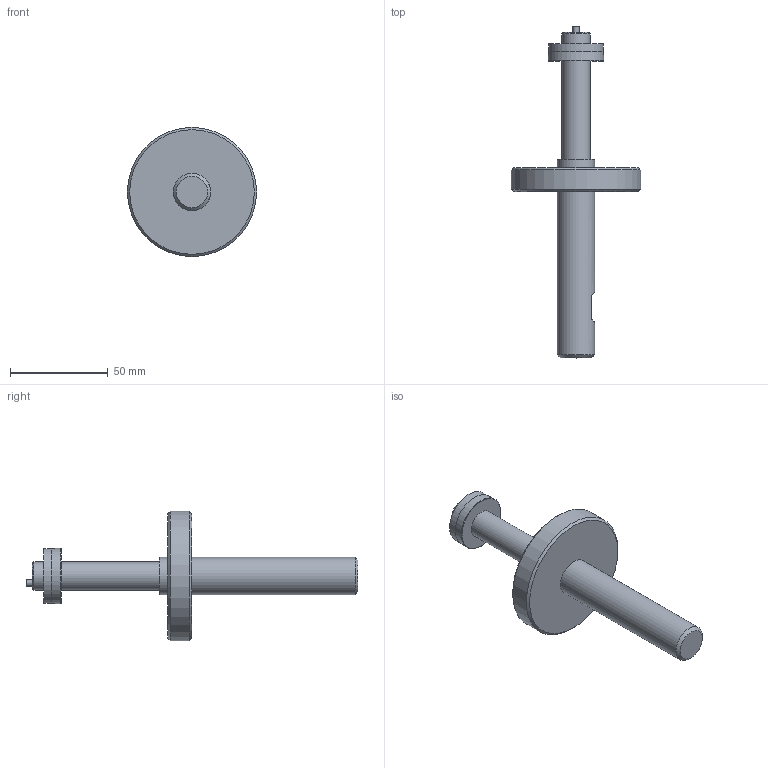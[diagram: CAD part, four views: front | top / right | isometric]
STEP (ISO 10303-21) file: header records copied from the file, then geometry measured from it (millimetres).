
FILE_DESCRIPTION (( 'STEP AP203' ), '1' );
FILE_NAME ('AF56-SIMPLE - AF56-14.50-28.50M.step', '2025-01-22T13:31:27', ( '' ), ( '' ), 'SwSTEP 2.0', 'SolidWorks 2024', '' );
FILE_SCHEMA (( 'CONFIG_CONTROL_DESIGN' ));
Length unit declared in the file: inch
Products named in the file (1): AF56-SIMPLE - AF56-14.50-28.50M
Bounding box: 66.04 x 169.8 x 66.04 mm (x, y, z)
Volume: 81387 mm3; surface area: 18647.8 mm2
Topology: 1 solids, 1 shells, 24 faces, 40 edges, 25 vertices
Faces by surface type: plane 11, cylinder 7, cone 5, torus 1
Full cylindrical faces by diameter (mm): 3.175 x1, 14.376 x2, 19.05 x2, 27.994 x1, 66.04 x1
Entity records: 569 total; most frequent: DIRECTION 94, CARTESIAN_POINT 81, ORIENTED_EDGE 52, AXIS2_PLACEMENT_3D 45, EDGE_LOOP 44, FACE_OUTER_BOUND 32, EDGE_CURVE 26, VERTEX_POINT 24
